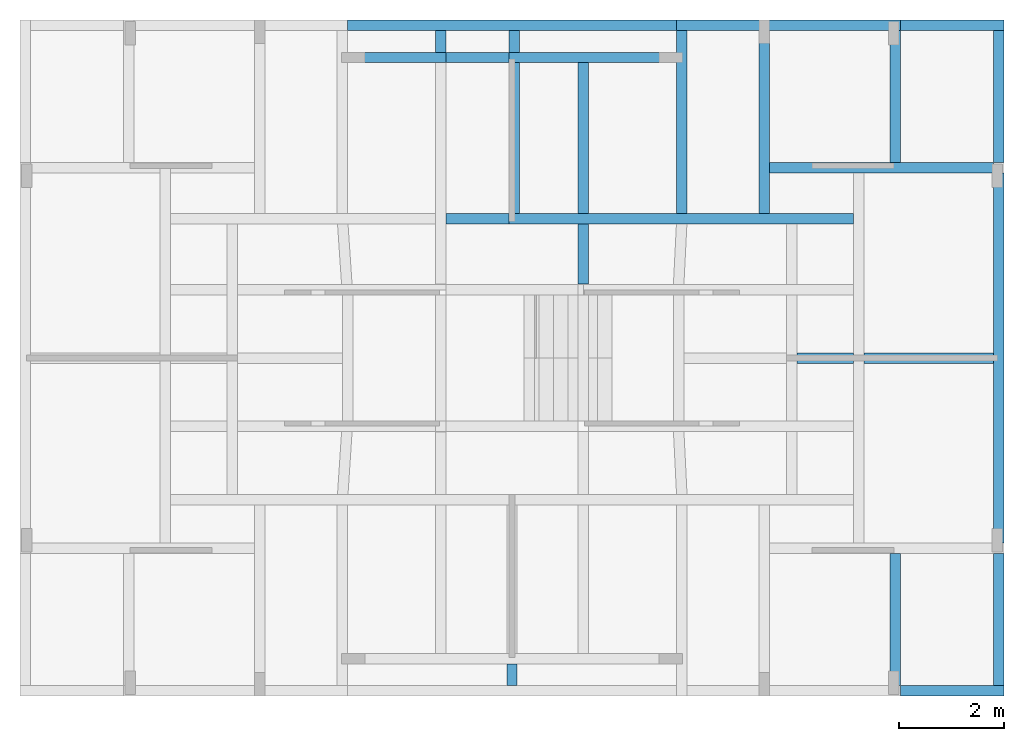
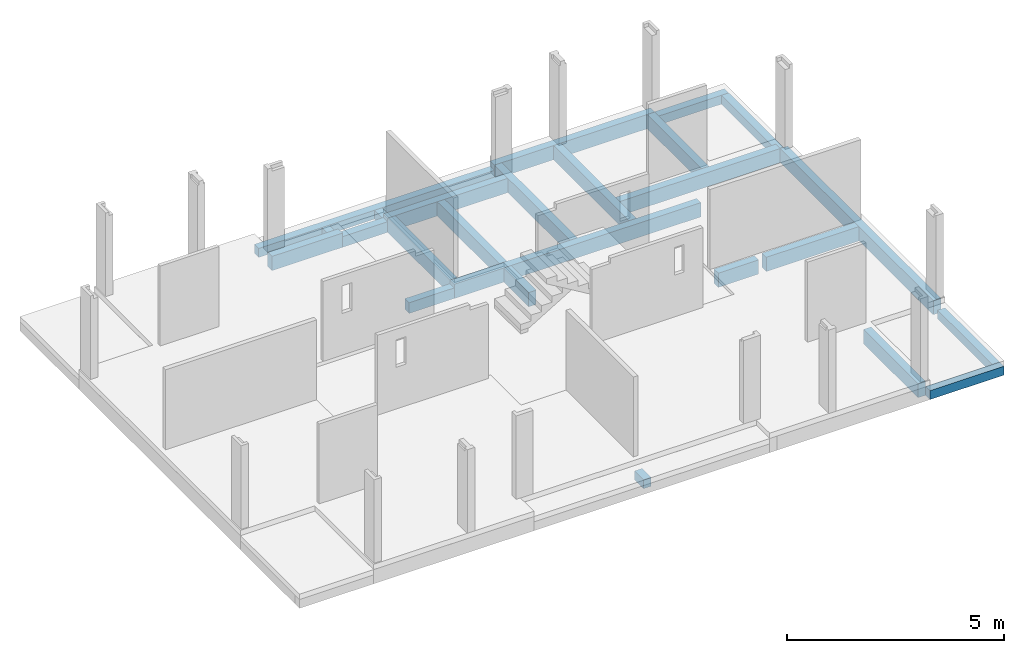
# One storey, part 3 of 7: 23 beams.
"""IFC4 building model written with IfcOpenShell, lengths in metres."""

from ifc_helpers import new_model, entity, si_unit, converted_unit, derived_unit, direction, frame, origin, place, context, subcontext, project, spatial, indexed_curve, outline, extrude, source, transform, mapped, material, type_object, type_shapes, element, save


model = new_model("IFC4")

# Units and contexts
model_context = context("Model", 3, precision=1e-05, world=origin(), true_north=direction((6.123031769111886e-17, 1.0)))
body_context = subcontext(model_context, "Body", "Model", "MODEL_VIEW")
ifc_project = project(units=[si_unit("LENGTHUNIT", "METRE"), si_unit("AREAUNIT", "SQUARE_METRE"), si_unit("VOLUMEUNIT", "CUBIC_METRE"), converted_unit("PLANEANGLEUNIT", "DEGREE", entity("IfcRatioMeasure", 0.017453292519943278), si_unit("PLANEANGLEUNIT", "RADIAN"), dimensions=[0, 0, 0, 0, 0, 0, 0]), si_unit("MASSUNIT", "GRAM", prefix="KILO"), derived_unit("MASSDENSITYUNIT", [(si_unit("MASSUNIT", "GRAM", prefix="KILO"), 1), (si_unit("LENGTHUNIT", "METRE"), -3)]), derived_unit("IONCONCENTRATIONUNIT", [(si_unit("MASSUNIT", "GRAM", prefix="KILO"), 1), (si_unit("LENGTHUNIT", "METRE"), -3)]), derived_unit("MOMENTOFINERTIAUNIT", [(si_unit("LENGTHUNIT", "METRE"), 4)]), si_unit("TIMEUNIT", "SECOND"), si_unit("FREQUENCYUNIT", "HERTZ"), si_unit("THERMODYNAMICTEMPERATUREUNIT", "DEGREE_CELSIUS"), derived_unit("THERMALTRANSMITTANCEUNIT", [(si_unit("MASSUNIT", "GRAM", prefix="KILO"), 1), (si_unit("THERMODYNAMICTEMPERATUREUNIT", "KELVIN"), -1), (si_unit("TIMEUNIT", "SECOND"), -3)]), derived_unit("THERMALCONDUCTANCEUNIT", [(si_unit("MASSUNIT", "GRAM", prefix="KILO"), 1), (si_unit("THERMODYNAMICTEMPERATUREUNIT", "KELVIN"), -1), (si_unit("TIMEUNIT", "SECOND"), -3), (si_unit("LENGTHUNIT", "METRE"), 1)]), derived_unit("VOLUMETRICFLOWRATEUNIT", [(si_unit("LENGTHUNIT", "METRE"), 3), (si_unit("TIMEUNIT", "SECOND"), -1)]), derived_unit("MASSFLOWRATEUNIT", [(si_unit("MASSUNIT", "GRAM", prefix="KILO"), 1), (si_unit("TIMEUNIT", "SECOND"), -1)]), derived_unit("ROTATIONALFREQUENCYUNIT", [(si_unit("TIMEUNIT", "SECOND"), -1)]), si_unit("ELECTRICCURRENTUNIT", "AMPERE"), si_unit("ELECTRICVOLTAGEUNIT", "VOLT"), si_unit("POWERUNIT", "WATT"), si_unit("FORCEUNIT", "NEWTON", prefix="KILO"), si_unit("ILLUMINANCEUNIT", "LUX"), si_unit("LUMINOUSFLUXUNIT", "LUMEN"), si_unit("LUMINOUSINTENSITYUNIT", "CANDELA"), derived_unit("USERDEFINED", [(si_unit("MASSUNIT", "GRAM", prefix="KILO"), -1), (si_unit("LENGTHUNIT", "METRE"), -2), (si_unit("TIMEUNIT", "SECOND"), 3), (si_unit("LUMINOUSFLUXUNIT", "LUMEN"), 1)]), derived_unit("USERDEFINED", [(si_unit("MASSUNIT", "GRAM", prefix="KILO"), 1), (si_unit("TIMEUNIT", "SECOND"), -3), (si_unit("LENGTHUNIT", "METRE"), 3), (si_unit("ELECTRICCURRENTUNIT", "AMPERE"), -2)]), derived_unit("SOUNDPOWERUNIT", [(si_unit("MASSUNIT", "GRAM", prefix="KILO"), 1), (si_unit("TIMEUNIT", "SECOND"), -3), (si_unit("LENGTHUNIT", "METRE"), 2)]), derived_unit("SOUNDPRESSUREUNIT", [(si_unit("MASSUNIT", "GRAM", prefix="KILO"), 1), (si_unit("LENGTHUNIT", "METRE"), -1), (si_unit("TIMEUNIT", "SECOND"), -2)]), derived_unit("LINEARVELOCITYUNIT", [(si_unit("LENGTHUNIT", "METRE"), 1), (si_unit("TIMEUNIT", "SECOND"), -1)]), si_unit("PRESSUREUNIT", "PASCAL"), derived_unit("USERDEFINED", [(si_unit("MASSUNIT", "GRAM", prefix="KILO"), 1), (si_unit("LENGTHUNIT", "METRE"), -2), (si_unit("TIMEUNIT", "SECOND"), -2)]), derived_unit("LINEARFORCEUNIT", [(si_unit("MASSUNIT", "GRAM", prefix="KILO"), 1), (si_unit("TIMEUNIT", "SECOND"), -2)]), derived_unit("PLANARFORCEUNIT", [(si_unit("MASSUNIT", "GRAM", prefix="KILO"), 1), (si_unit("LENGTHUNIT", "METRE"), -1), (si_unit("TIMEUNIT", "SECOND"), -2)]), derived_unit("SPECIFICHEATCAPACITYUNIT", [(si_unit("THERMODYNAMICTEMPERATUREUNIT", "KELVIN"), -1), (si_unit("LENGTHUNIT", "METRE"), 2), (si_unit("TIMEUNIT", "SECOND"), -2)]), derived_unit("HEATINGVALUEUNIT", [(si_unit("LENGTHUNIT", "METRE"), 2), (si_unit("TIMEUNIT", "SECOND"), -2)]), derived_unit("VAPORPERMEABILITYUNIT", [(si_unit("LENGTHUNIT", "METRE"), -1), (si_unit("TIMEUNIT", "SECOND"), 1)]), derived_unit("DYNAMICVISCOSITYUNIT", [(si_unit("MASSUNIT", "GRAM", prefix="KILO"), 1), (si_unit("TIMEUNIT", "SECOND"), -1), (si_unit("LENGTHUNIT", "METRE"), -1)]), derived_unit("THERMALEXPANSIONCOEFFICIENTUNIT", [(si_unit("THERMODYNAMICTEMPERATUREUNIT", "KELVIN"), -1)]), derived_unit("MODULUSOFELASTICITYUNIT", [(si_unit("MASSUNIT", "GRAM", prefix="KILO"), 1), (si_unit("LENGTHUNIT", "METRE"), -1), (si_unit("TIMEUNIT", "SECOND"), -2)]), derived_unit("ISOTHERMALMOISTURECAPACITYUNIT", [(si_unit("LENGTHUNIT", "METRE"), 3), (si_unit("MASSUNIT", "GRAM", prefix="KILO"), -1)]), derived_unit("MOISTUREDIFFUSIVITYUNIT", [(si_unit("TIMEUNIT", "SECOND"), -1), (si_unit("LENGTHUNIT", "METRE"), 2)])], contexts=[model_context])

# Site, building, storey
site_placement = place(None, origin())
site = spatial("IfcSite", under=ifc_project, at=site_placement, Name="Default", CompositionType="ELEMENT")
building_placement = place(site_placement, origin())
building = spatial("IfcBuilding", under=site, at=building_placement, Name="Las nubes", CompositionType="ELEMENT")
storey_placement = place(building_placement, origin())
storey = spatial("IfcBuildingStorey", under=building, at=storey_placement, Name="CIMENTACIÓN", CompositionType="ELEMENT", Elevation=-3.522347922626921e-13)

# Beams
ifc_material_1 = material(Name="Concrete, Cast In Situ", Category="Materials")
beam_type_1 = type_object("IfcBeamType", Name="M_Concrete-Rectangular Beam:(0.20x0.55)", PredefinedType="BEAM", material=ifc_material_1)
shared_shape_1 = source(origin(), body_context, "Body", "SweptSolid", [
    extrude(outline(indexed_curve([(-0.1999999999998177, -0.09999999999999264), (0.19999999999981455, -0.10000000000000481), (0.19999999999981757, 0.09999999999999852), (-0.1999999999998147, 0.10000000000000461), (-0.1999999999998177, -0.09999999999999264)], self_intersect=False)), frame((6.182499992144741, -0.6950000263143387, -0.3500000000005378), z_axis=(1.0, 0.0, 0.0), x_axis=(0.0, 0.0, -1.0)), (0.0, 0.0, 1.0), 1.8800000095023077),
])
type_shapes(beam_type_1, [shared_shape_1])
beam_1_placement = place(storey_placement, origin())
element("IfcBeam", 1, at=beam_1_placement, inside=storey, type_object=beam_type_1, material=ifc_material_1, Name="M_Concrete-Rectangular Beam:(0.20x0.55)", ObjectType="M_Concrete-Rectangular Beam:(0.20x0.55)", PredefinedType="BEAM", context=body_context, shape_type="MappedRepresentation", body=[
    mapped(shared_shape_1, transform((0.0, 0.0, 0.0), scale=1.0)),
])
beam_type_2 = type_object("IfcBeamType", Name="M_Concrete-Rectangular Beam:(0.20x0.55)", PredefinedType="BEAM", material=ifc_material_1)
shared_shape_2 = source(origin(), body_context, "Body", "SweptSolid", [
    extrude(outline(indexed_curve([(-0.10000000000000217, -0.19999999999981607), (0.10000000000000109, -0.19999999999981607), (0.1000000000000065, 0.19999999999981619), (-0.10000000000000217, 0.19999999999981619), (-0.10000000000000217, -0.19999999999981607)], self_intersect=False)), frame((9.362500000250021, -3.6674999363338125, -0.3500000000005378), z_axis=(0.0, 1.0, 0.0), x_axis=(-1.0, 0.0, 0.0)), (0.0, 0.0, 1.0), 2.872499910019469),
])
type_shapes(beam_type_2, [shared_shape_2])
beam_2_placement = place(storey_placement, origin())
element("IfcBeam", 2, at=beam_2_placement, inside=storey, type_object=beam_type_2, material=ifc_material_1, Name="M_Concrete-Rectangular Beam:(0.20x0.55)", ObjectType="M_Concrete-Rectangular Beam:(0.20x0.55)", PredefinedType="BEAM", context=body_context, shape_type="MappedRepresentation", body=[
    mapped(shared_shape_2, transform((0.0, 0.0, 0.0), scale=1.0)),
])
beam_type_3 = type_object("IfcBeamType", Name="M_Concrete-Rectangular Beam:(0.20x0.55)", PredefinedType="BEAM", material=ifc_material_1)
shared_shape_3 = source(origin(), body_context, "Body", "SweptSolid", [
    extrude(outline(indexed_curve([(-0.10000000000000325, -0.19999999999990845), (0.10000000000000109, -0.19999999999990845), (0.10000000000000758, 0.19999999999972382), (-0.10000000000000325, 0.20000000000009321), (-0.10000000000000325, -0.19999999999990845)], self_intersect=False)), frame((16.627500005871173, -12.67000003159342, -0.3500000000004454), z_axis=(0.0, 1.0, 0.0), x_axis=(-1.0, 0.0, 0.0)), (0.0, 0.0, 1.0), 2.515000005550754),
])
type_shapes(beam_type_3, [shared_shape_3])
beam_3_placement = place(storey_placement, origin())
element("IfcBeam", 3, at=beam_3_placement, inside=storey, type_object=beam_type_3, material=ifc_material_1, Name="M_Concrete-Rectangular Beam:(0.20x0.55)", ObjectType="M_Concrete-Rectangular Beam:(0.20x0.55)", PredefinedType="BEAM", context=body_context, shape_type="MappedRepresentation", body=[
    mapped(shared_shape_3, transform((0.0, 0.0, 0.0), scale=1.0)),
])
ifc_material_2 = material(Name="Concrete - Cast-in-Place Concrete - 28 MPa SLAB", Category="Materials")
beam_type_4 = type_object("IfcBeamType", Name="M_Concrete-Rectangular Beam:(0.20x0.55)", PredefinedType="BEAM", material=ifc_material_2)
shared_shape_4 = source(origin(), body_context, "Body", "SweptSolid", [
    extrude(outline(indexed_curve([(-0.10000000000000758, -0.19999999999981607), (0.09999999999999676, -0.19999999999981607), (0.10000000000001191, 0.19999999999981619), (-0.10000000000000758, 0.19999999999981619), (-0.10000000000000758, -0.19999999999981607)], self_intersect=False)), frame((18.602500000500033, -9.955000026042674, -0.3500000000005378), z_axis=(0.0, 1.0, 0.0), x_axis=(-1.0, 0.0, 0.0)), (0.0, 0.0, 1.0), 7.0599999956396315),
])
type_shapes(beam_type_4, [shared_shape_4])
beam_4_placement = place(storey_placement, origin())
element("IfcBeam", 4, at=beam_4_placement, inside=storey, type_object=beam_type_4, material=ifc_material_2, Name="M_Concrete-Rectangular Beam:(0.20x0.55)", ObjectType="M_Concrete-Rectangular Beam:(0.20x0.55)", PredefinedType="BEAM", context=body_context, shape_type="MappedRepresentation", body=[
    mapped(shared_shape_4, transform((0.0, 0.0, 0.0), scale=1.0)),
])
beam_type_5 = type_object("IfcBeamType", Name="M_Concrete-Rectangular Beam:(0.20x0.55)", PredefinedType="BEAM", material=ifc_material_2)
shared_shape_5 = source(origin(), body_context, "Body", "SweptSolid", [
    extrude(outline(indexed_curve([(-0.19999999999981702, -0.09999999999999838), (0.19999999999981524, -0.1000000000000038), (0.19999999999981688, 0.09999999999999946), (-0.19999999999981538, 0.1000000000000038), (-0.19999999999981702, -0.09999999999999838)], self_intersect=False)), frame((15.834998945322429, -6.425000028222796, -0.3500000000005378), z_axis=(-1.0, 0.0, 0.0), x_axis=(0.0, 0.0, -1.0)), (0.0, 0.0, 1.0), 1.077498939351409),
    extrude(outline(indexed_curve([(-0.1999999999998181, -0.0999999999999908), (0.19999999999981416, -0.10000000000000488), (0.19999999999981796, 0.09999999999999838), (-0.1999999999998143, 0.10000000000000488), (-0.1999999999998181, -0.0999999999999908)], self_intersect=False)), frame((18.502500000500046, -6.425000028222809, -0.3500000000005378), z_axis=(-1.0, 0.0, 0.0), x_axis=(0.0, 0.0, -1.0)), (0.0, 0.0, 1.0), 2.467501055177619),
])
type_shapes(beam_type_5, [shared_shape_5])
beam_5_placement = place(storey_placement, origin())
element("IfcBeam", 5, at=beam_5_placement, inside=storey, type_object=beam_type_5, material=ifc_material_2, Name="M_Concrete-Rectangular Beam:(0.20x0.55)", ObjectType="M_Concrete-Rectangular Beam:(0.20x0.55)", PredefinedType="BEAM", context=body_context, shape_type="MappedRepresentation", body=[
    mapped(shared_shape_5, transform((0.0, 0.0, 0.0), scale=1.0)),
])
ifc_material_3 = material(Name="Concrete - Cast-in-Place Concrete - 35 MPa", Category="Materials")
beam_type_6 = type_object("IfcBeamType", Name="M_Concrete-Rectangular Beam:(0.20x0.55)", PredefinedType="BEAM", material=ifc_material_3)
shared_shape_6 = source(origin(), body_context, "Body", "SweptSolid", [
    extrude(outline(indexed_curve([(-0.19999999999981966, -0.09999999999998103), (0.1999999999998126, -0.10000000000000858), (0.19999999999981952, 0.09999999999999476), (-0.19999999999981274, 0.10000000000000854), (-0.19999999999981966, -0.09999999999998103)], self_intersect=False)), frame((12.462500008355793, -0.08000002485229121, -0.3500000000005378), z_axis=(1.0, 0.0, 0.0), x_axis=(0.0, 0.0, -1.0)), (0.0, 0.0, 1.0), 4.264999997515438),
])
type_shapes(beam_type_6, [shared_shape_6])
beam_6_placement = place(storey_placement, origin())
element("IfcBeam", 6, at=beam_6_placement, inside=storey, type_object=beam_type_6, material=ifc_material_3, Name="M_Concrete-Rectangular Beam:(0.20x0.55)", ObjectType="M_Concrete-Rectangular Beam:(0.20x0.55)", PredefinedType="BEAM", context=body_context, shape_type="MappedRepresentation", body=[
    mapped(shared_shape_6, transform((0.0, 0.0, 0.0), scale=1.0)),
])
beam_type_7 = type_object("IfcBeamType", Name="M_Concrete-Rectangular Beam:(0.20x0.55)", PredefinedType="BEAM", material=ifc_material_2)
shared_shape_7 = source(origin(), body_context, "Body", "SweptSolid", [
    extrude(outline(indexed_curve([(-0.10000000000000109, -0.19999999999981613), (0.10000000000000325, -0.19999999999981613), (0.10000000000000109, 0.19999999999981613), (-0.10000000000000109, 0.19999999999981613), (-0.10000000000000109, -0.19999999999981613)], self_intersect=False)), frame((14.135000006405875, -0.18000002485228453, -0.3500000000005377), z_axis=(0.0, -1.0, 0.0), x_axis=(-1.0, 0.0, 0.0)), (0.0, 0.0, 1.0), 3.487499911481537),
])
type_shapes(beam_type_7, [shared_shape_7])
beam_7_placement = place(storey_placement, origin())
element("IfcBeam", 7, at=beam_7_placement, inside=storey, type_object=beam_type_7, material=ifc_material_2, Name="M_Concrete-Rectangular Beam:(0.20x0.55)", ObjectType="M_Concrete-Rectangular Beam:(0.20x0.55)", PredefinedType="BEAM", context=body_context, shape_type="MappedRepresentation", body=[
    mapped(shared_shape_7, transform((0.0, 0.0, 0.0), scale=1.0)),
])
beam_type_8 = type_object("IfcBeamType", Name="M_Concrete-Rectangular Beam:(0.20x0.55)", PredefinedType="BEAM", material=ifc_material_2)
shared_shape_8 = source(origin(), body_context, "Body", "SweptSolid", [
    extrude(outline(indexed_curve([(-0.1999999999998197, -0.09999999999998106), (0.19999999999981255, -0.10000000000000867), (0.19999999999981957, 0.0999999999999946), (-0.1999999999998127, 0.10000000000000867), (-0.1999999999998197, -0.09999999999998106)], self_intersect=False)), frame((18.502500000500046, -2.7950000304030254, -0.3500000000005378), z_axis=(-1.0, 0.0, 0.0), x_axis=(0.0, 0.0, -1.0)), (0.0, 0.0, 1.0), 4.267499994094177),
])
type_shapes(beam_type_8, [shared_shape_8])
beam_8_placement = place(storey_placement, origin())
element("IfcBeam", 8, at=beam_8_placement, inside=storey, type_object=beam_type_8, material=ifc_material_2, Name="M_Concrete-Rectangular Beam:(0.20x0.55)", ObjectType="M_Concrete-Rectangular Beam:(0.20x0.55)", PredefinedType="BEAM", context=body_context, shape_type="MappedRepresentation", body=[
    mapped(shared_shape_8, transform((0.0, 0.0, 0.0), scale=1.0)),
])
beam_type_9 = type_object("IfcBeamType", Name="M_Concrete-Rectangular Beam:(0.20x0.55)", PredefinedType="BEAM", material=ifc_material_2)
shared_shape_9 = source(origin(), body_context, "Body", "SweptSolid", [
    extrude(outline(indexed_curve([(-0.10000000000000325, -0.20000000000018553), (0.10000000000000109, -0.19999999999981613), (0.10000000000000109, 0.19999999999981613), (-0.10000000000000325, 0.19999999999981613), (-0.10000000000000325, -0.20000000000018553)], self_intersect=False)), frame((16.627500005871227, -0.18000002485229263, -0.3500000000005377), z_axis=(0.0, -1.0, 0.0), x_axis=(-1.0, 0.0, 0.0)), (0.0, 0.0, 1.0), 2.5150000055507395),
])
type_shapes(beam_type_9, [shared_shape_9])
beam_9_placement = place(storey_placement, origin())
element("IfcBeam", 9, at=beam_9_placement, inside=storey, type_object=beam_type_9, material=ifc_material_2, Name="M_Concrete-Rectangular Beam:(0.20x0.55)", ObjectType="M_Concrete-Rectangular Beam:(0.20x0.55)", PredefinedType="BEAM", context=body_context, shape_type="MappedRepresentation", body=[
    mapped(shared_shape_9, transform((0.0, 0.0, 0.0), scale=1.0)),
])
beam_type_10 = type_object("IfcBeamType", Name="M_Concrete-Rectangular Beam:(0.20x0.40)", PredefinedType="BEAM", material=ifc_material_1)
shared_shape_10 = source(origin(), body_context, "Body", "SweptSolid", [
    extrude(outline(indexed_curve([(-0.10000000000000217, -0.12500000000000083), (0.10000000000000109, -0.12500000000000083), (0.10000000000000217, 0.12500000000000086), (-0.10000000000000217, 0.12500000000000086), (-0.10000000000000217, -0.12500000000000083)], self_intersect=False)), frame((7.962500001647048, -0.5950000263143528, -0.42500000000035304), z_axis=(0.0, 1.0, 0.0), x_axis=(-1.0, 0.0, 0.0)), (0.0, 0.0, 1.0), 0.4150000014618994),
])
type_shapes(beam_type_10, [shared_shape_10])
beam_10_placement = place(storey_placement, origin())
element("IfcBeam", 10, at=beam_10_placement, inside=storey, type_object=beam_type_10, material=ifc_material_1, Name="M_Concrete-Rectangular Beam:(0.20x0.40)", ObjectType="M_Concrete-Rectangular Beam:(0.20x0.40)", PredefinedType="BEAM", context=body_context, shape_type="MappedRepresentation", body=[
    mapped(shared_shape_10, transform((0.0, 0.0, 0.0), scale=1.0)),
])
beam_type_11 = type_object("IfcBeamType", Name="M_Concrete-Rectangular Beam:(0.20x0.40)", PredefinedType="BEAM", material=ifc_material_1)
shared_shape_11 = source(origin(), body_context, "Body", "SweptSolid", [
    extrude(outline(indexed_curve([(-0.12500000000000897, -0.09999999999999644), (0.12499999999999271, -0.10000000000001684), (0.12500000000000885, 0.09999999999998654), (-0.12499999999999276, 0.10000000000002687), (-0.12500000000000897, -0.09999999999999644)], self_intersect=False)), frame((6.182499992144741, -0.08000002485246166, -0.42500000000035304), z_axis=(1.0, 0.0, 0.0), x_axis=(0.0, 0.0, -1.0)), (0.0, 0.0, 1.0), 6.280000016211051),
])
type_shapes(beam_type_11, [shared_shape_11])
beam_11_placement = place(storey_placement, origin())
element("IfcBeam", 11, at=beam_11_placement, inside=storey, type_object=beam_type_11, material=ifc_material_1, Name="M_Concrete-Rectangular Beam:(0.20x0.40)", ObjectType="M_Concrete-Rectangular Beam:(0.20x0.40)", PredefinedType="BEAM", context=body_context, shape_type="MappedRepresentation", body=[
    mapped(shared_shape_11, transform((0.0, 0.0, 0.0), scale=1.0)),
])
beam_type_12 = type_object("IfcBeamType", Name="M_Concrete-Rectangular Beam:(0.20x0.40)", PredefinedType="BEAM", material=ifc_material_1)
shared_shape_12 = source(origin(), body_context, "Body", "SweptSolid", [
    extrude(outline(indexed_curve([(-0.10000000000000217, -0.12500000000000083), (0.10000000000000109, -0.12500000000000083), (0.10000000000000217, 0.12500000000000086), (-0.10000000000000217, 0.12500000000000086), (-0.10000000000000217, -0.12500000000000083)], self_intersect=False)), frame((9.362500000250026, -0.5950000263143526, -0.42500000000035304), z_axis=(0.0, 1.0, 0.0), x_axis=(-1.0, 0.0, 0.0)), (0.0, 0.0, 1.0), 0.4150000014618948),
])
type_shapes(beam_type_12, [shared_shape_12])
beam_12_placement = place(storey_placement, origin())
element("IfcBeam", 12, at=beam_12_placement, inside=storey, type_object=beam_type_12, material=ifc_material_1, Name="M_Concrete-Rectangular Beam:(0.20x0.40)", ObjectType="M_Concrete-Rectangular Beam:(0.20x0.40)", PredefinedType="BEAM", context=body_context, shape_type="MappedRepresentation", body=[
    mapped(shared_shape_12, transform((0.0, 0.0, 0.0), scale=1.0)),
])
beam_type_13 = type_object("IfcBeamType", Name="M_Concrete-Rectangular Beam:(0.20x0.40)", PredefinedType="BEAM", material=ifc_material_2)
shared_shape_13 = source(origin(), body_context, "Body", "SweptSolid", [
    extrude(outline(indexed_curve([(-0.1250000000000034, -0.09999999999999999), (0.12499999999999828, -0.10000000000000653), (0.1250000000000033, 0.09999999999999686), (-0.12499999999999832, 0.10000000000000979), (-0.1250000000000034, -0.09999999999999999)], self_intersect=False)), frame((16.727500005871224, -0.08000002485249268, -0.42500000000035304), z_axis=(1.0, 0.0, 0.0), x_axis=(0.0, 0.0, -1.0)), (0.0, 0.0, 1.0), 1.974999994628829),
])
type_shapes(beam_type_13, [shared_shape_13])
beam_13_placement = place(storey_placement, origin())
element("IfcBeam", 13, at=beam_13_placement, inside=storey, type_object=beam_type_13, material=ifc_material_2, Name="M_Concrete-Rectangular Beam:(0.20x0.40)", ObjectType="M_Concrete-Rectangular Beam:(0.20x0.40)", PredefinedType="BEAM", context=body_context, shape_type="MappedRepresentation", body=[
    mapped(shared_shape_13, transform((0.0, 0.0, 0.0), scale=1.0)),
])
beam_type_14 = type_object("IfcBeamType", Name="M_Concrete-Rectangular Beam:(0.20x0.40)", PredefinedType="BEAM", material=ifc_material_2)
shared_shape_14 = source(origin(), body_context, "Body", "SweptSolid", [
    extrude(outline(indexed_curve([(-0.10000000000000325, -0.12500000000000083), (0.10000000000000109, -0.12500000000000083), (0.10000000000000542, 0.12500000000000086), (-0.10000000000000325, 0.12500000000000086), (-0.10000000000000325, -0.12500000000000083)], self_intersect=False)), frame((18.60250000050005, -2.695000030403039, -0.42500000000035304), z_axis=(0.0, 1.0, 0.0), x_axis=(-1.0, 0.0, 0.0)), (0.0, 0.0, 1.0), 2.5150000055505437),
])
type_shapes(beam_type_14, [shared_shape_14])
beam_14_placement = place(storey_placement, origin())
element("IfcBeam", 14, at=beam_14_placement, inside=storey, type_object=beam_type_14, material=ifc_material_2, Name="M_Concrete-Rectangular Beam:(0.20x0.40)", ObjectType="M_Concrete-Rectangular Beam:(0.20x0.40)", PredefinedType="BEAM", context=body_context, shape_type="MappedRepresentation", body=[
    mapped(shared_shape_14, transform((0.0, 0.0, 0.0), scale=1.0)),
])
beam_type_15 = type_object("IfcBeamType", Name="M_Concrete-Rectangular Beam:(0.20x0.40)", PredefinedType="BEAM", material=ifc_material_1)
shared_shape_15 = source(origin(), body_context, "Body", "SweptSolid", [
    extrude(outline(indexed_curve([(-0.12500000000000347, -0.1), (0.12499999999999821, -0.1000000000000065), (0.12500000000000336, 0.09999999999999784), (-0.12499999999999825, 0.10000000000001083), (-0.12500000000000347, -0.1)], self_intersect=False)), frame((16.72750000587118, -12.770000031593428, -0.42500000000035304), z_axis=(1.0, 0.0, 0.0), x_axis=(0.0, 0.0, -1.0)), (0.0, 0.0, 1.0), 1.9749999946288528),
])
type_shapes(beam_type_15, [shared_shape_15])
beam_15_placement = place(storey_placement, origin())
element("IfcBeam", 15, at=beam_15_placement, inside=storey, type_object=beam_type_15, material=ifc_material_1, Name="M_Concrete-Rectangular Beam:(0.20x0.40)", ObjectType="M_Concrete-Rectangular Beam:(0.20x0.40)", PredefinedType="BEAM", context=body_context, shape_type="MappedRepresentation", body=[
    mapped(shared_shape_15, transform((0.0, 0.0, 0.0), scale=1.0)),
])
beam_type_16 = type_object("IfcBeamType", Name="M_Concrete-Rectangular Beam:(0.20x0.40)", PredefinedType="BEAM", material=ifc_material_1)
shared_shape_16 = source(origin(), body_context, "Body", "SweptSolid", [
    extrude(outline(indexed_curve([(-0.10000000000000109, -0.12500000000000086), (0.10000000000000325, -0.12500000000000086), (0.10000000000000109, 0.12500000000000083), (-0.10000000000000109, 0.12500000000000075), (-0.10000000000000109, -0.12500000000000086)], self_intersect=False)), frame((18.602500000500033, -10.15500002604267, -0.42500000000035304), z_axis=(0.0, -1.0, 0.0), x_axis=(-1.0, 0.0, 0.0)), (0.0, 0.0, 1.0), 2.515000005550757),
])
type_shapes(beam_type_16, [shared_shape_16])
beam_16_placement = place(storey_placement, origin())
element("IfcBeam", 16, at=beam_16_placement, inside=storey, type_object=beam_type_16, material=ifc_material_1, Name="M_Concrete-Rectangular Beam:(0.20x0.40)", ObjectType="M_Concrete-Rectangular Beam:(0.20x0.40)", PredefinedType="BEAM", context=body_context, shape_type="MappedRepresentation", body=[
    mapped(shared_shape_16, transform((0.0, 0.0, 0.0), scale=1.0)),
])
beam_type_17 = type_object("IfcBeamType", Name="M_Concrete-Rectangular Beam:(0.20x0.40)", PredefinedType="BEAM", material=ifc_material_1)
shared_shape_17 = source(origin(), body_context, "Body", "SweptSolid", [
    extrude(outline(indexed_curve([(-0.10000000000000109, -0.1250000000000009), (0.10000000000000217, -0.12500000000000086), (0.10000000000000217, 0.12500000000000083), (-0.10000000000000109, 0.12500000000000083), (-0.10000000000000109, -0.1250000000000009)], self_intersect=False)), frame((9.322500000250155, -12.255000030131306, -0.42500000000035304), z_axis=(0.0, -1.0, 0.0), x_axis=(-1.0, 0.0, 0.0)), (0.0, 0.0, 1.0), 0.41500000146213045),
])
type_shapes(beam_type_17, [shared_shape_17])
beam_17_placement = place(storey_placement, origin())
element("IfcBeam", 17, at=beam_17_placement, inside=storey, type_object=beam_type_17, material=ifc_material_1, Name="M_Concrete-Rectangular Beam:(0.20x0.40)", ObjectType="M_Concrete-Rectangular Beam:(0.20x0.40)", PredefinedType="BEAM", context=body_context, shape_type="MappedRepresentation", body=[
    mapped(shared_shape_17, transform((0.0, 0.0, 0.0), scale=1.0)),
])
beam_type_18 = type_object("IfcBeamType", Name="M_Concrete-Rectangular Beam:(0.20x0.55)", PredefinedType="BEAM", material=ifc_material_1)
shared_shape_18 = source(origin(), body_context, "Body", "SweptSolid", [
    extrude(outline(indexed_curve([(-0.10000000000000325, -0.19999999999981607), (0.10000000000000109, -0.19999999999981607), (0.10000000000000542, 0.19999999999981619), (-0.10000000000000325, 0.19999999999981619), (-0.10000000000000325, -0.19999999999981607)], self_intersect=False)), frame((12.562500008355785, -3.667499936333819, -0.3500000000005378), z_axis=(0.0, 1.0, 0.0), x_axis=(-1.0, 0.0, 0.0)), (0.0, 0.0, 1.0), 3.4874999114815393),
])
type_shapes(beam_type_18, [shared_shape_18])
beam_18_placement = place(storey_placement, origin())
element("IfcBeam", 18, at=beam_18_placement, inside=storey, type_object=beam_type_18, material=ifc_material_1, Name="M_Concrete-Rectangular Beam:(0.20x0.55)", ObjectType="M_Concrete-Rectangular Beam:(0.20x0.55)", PredefinedType="BEAM", context=body_context, shape_type="MappedRepresentation", body=[
    mapped(shared_shape_18, transform((0.0, 0.0, 0.0), scale=1.0)),
])
beam_type_19 = type_object("IfcBeamType", Name="M_Concrete-Rectangular Beam:(0.20x0.55)", PredefinedType="BEAM", material=ifc_material_1)
shared_shape_19 = source(origin(), body_context, "Body", "SweptSolid", [
    extrude(outline(indexed_curve([(-0.10000000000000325, -0.19999999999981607), (0.10000000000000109, -0.19999999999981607), (0.10000000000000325, 0.19999999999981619), (-0.10000000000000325, 0.19999999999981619), (-0.10000000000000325, -0.19999999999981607)], self_intersect=False)), frame((10.682499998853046, -5.012300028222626, -0.3500000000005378), z_axis=(0.0, 1.0, 0.0), x_axis=(-1.0, 0.0, 0.0)), (0.0, 0.0, 1.0), 1.1448000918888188),
    extrude(outline(indexed_curve([(-0.10000000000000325, -0.19999999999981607), (0.10000000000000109, -0.19999999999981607), (0.10000000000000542, 0.19999999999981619), (-0.10000000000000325, 0.19999999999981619), (-0.10000000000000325, -0.19999999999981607)], self_intersect=False)), frame((10.682499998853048, -3.6674999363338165, -0.3500000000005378), z_axis=(0.0, 1.0, 0.0), x_axis=(-1.0, 0.0, 0.0)), (0.0, 0.0, 1.0), 2.8724999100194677),
])
type_shapes(beam_type_19, [shared_shape_19])
beam_19_placement = place(storey_placement, origin())
element("IfcBeam", 19, at=beam_19_placement, inside=storey, type_object=beam_type_19, material=ifc_material_1, Name="M_Concrete-Rectangular Beam:(0.20x0.55)", ObjectType="M_Concrete-Rectangular Beam:(0.20x0.55)", PredefinedType="BEAM", context=body_context, shape_type="MappedRepresentation", body=[
    mapped(shared_shape_19, transform((0.0, 0.0, 0.0), scale=1.0)),
])
beam_type_20 = type_object("IfcBeamType", Name="M_Concrete-Rectangular Beam:(0.20x0.45)", PredefinedType="BEAM", material=ifc_material_1)
shared_shape_20 = source(origin(), body_context, "Body", "SweptSolid", [
    extrude(outline(indexed_curve([(-0.1500000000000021, -0.10000000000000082), (0.14999999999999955, -0.10000000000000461), (0.1500000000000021, 0.09999999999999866), (-0.14999999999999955, 0.10000000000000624), (-0.1500000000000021, -0.10000000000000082)], self_intersect=False)), frame((8.062500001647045, -3.767499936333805, -0.4000000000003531), z_axis=(1.0, 0.0, 0.0), x_axis=(0.0, 0.0, -1.0)), (0.0, 0.0, 1.0), 1.1999999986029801),
])
type_shapes(beam_type_20, [shared_shape_20])
beam_20_placement = place(storey_placement, origin())
element("IfcBeam", 20, at=beam_20_placement, inside=storey, type_object=beam_type_20, material=ifc_material_1, Name="M_Concrete-Rectangular Beam:(0.20x0.45)", ObjectType="M_Concrete-Rectangular Beam:(0.20x0.45)", PredefinedType="BEAM", context=body_context, shape_type="MappedRepresentation", body=[
    mapped(shared_shape_20, transform((0.0, 0.0, 0.0), scale=1.0)),
])
beam_type_21 = type_object("IfcBeamType", Name="M_Concrete-Rectangular Beam:(0.20x0.55)", PredefinedType="BEAM", material=ifc_material_2)
shared_shape_21 = source(origin(), body_context, "Body", "SweptSolid", [
    extrude(outline(indexed_curve([(-0.1999999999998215, -0.09999999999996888), (0.19999999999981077, -0.10000000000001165), (0.19999999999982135, 0.09999999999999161), (-0.1999999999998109, 0.10000000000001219), (-0.1999999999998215, -0.09999999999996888)], self_intersect=False)), frame((9.262500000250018, -3.767499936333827, -0.3500000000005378), z_axis=(1.0, 0.0, 0.0), x_axis=(0.0, 0.0, -1.0)), (0.0, 0.0, 1.0), 6.572498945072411),
])
type_shapes(beam_type_21, [shared_shape_21])
beam_21_placement = place(storey_placement, origin())
element("IfcBeam", 21, at=beam_21_placement, inside=storey, type_object=beam_type_21, material=ifc_material_2, Name="M_Concrete-Rectangular Beam:(0.20x0.55)", ObjectType="M_Concrete-Rectangular Beam:(0.20x0.55)", PredefinedType="BEAM", context=body_context, shape_type="MappedRepresentation", body=[
    mapped(shared_shape_21, transform((0.0, 0.0, 0.0), scale=1.0)),
])
beam_type_22 = type_object("IfcBeamType", Name="M_Concrete-Rectangular Beam:(0.20x0.45)", PredefinedType="BEAM", material=ifc_material_1)
shared_shape_22 = source(origin(), body_context, "Body", "SweptSolid", [
    extrude(outline(indexed_curve([(-0.1500000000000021, -0.10000000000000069), (0.14999999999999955, -0.10000000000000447), (0.1500000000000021, 0.09999999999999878), (-0.14999999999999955, 0.1000000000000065), (-0.1500000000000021, -0.10000000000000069)], self_intersect=False)), frame((8.06250000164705, -0.6950000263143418, -0.4000000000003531), z_axis=(1.0, 0.0, 0.0), x_axis=(0.0, 0.0, -1.0)), (0.0, 0.0, 1.0), 1.199999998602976),
])
type_shapes(beam_type_22, [shared_shape_22])
beam_22_placement = place(storey_placement, origin())
element("IfcBeam", 22, at=beam_22_placement, inside=storey, type_object=beam_type_22, material=ifc_material_1, Name="M_Concrete-Rectangular Beam:(0.20x0.45)", ObjectType="M_Concrete-Rectangular Beam:(0.20x0.45)", PredefinedType="BEAM", context=body_context, shape_type="MappedRepresentation", body=[
    mapped(shared_shape_22, transform((0.0, 0.0, 0.0), scale=1.0)),
])
beam_type_23 = type_object("IfcBeamType", Name="M_Concrete-Rectangular Beam:(0.20x0.55)", PredefinedType="BEAM", material=ifc_material_1)
shared_shape_23 = source(origin(), body_context, "Body", "SweptSolid", [
    extrude(outline(indexed_curve([(-0.19999999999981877, -0.0999999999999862), (0.1999999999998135, -0.10000000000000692), (0.19999999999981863, 0.0999999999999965), (-0.19999999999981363, 0.10000000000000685), (-0.19999999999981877, -0.0999999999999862)], self_intersect=False)), frame((9.262500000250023, -0.6950000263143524, -0.3500000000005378), z_axis=(1.0, 0.0, 0.0), x_axis=(0.0, 0.0, -1.0)), (0.0, 0.0, 1.0), 3.2000000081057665),
])
type_shapes(beam_type_23, [shared_shape_23])
beam_23_placement = place(storey_placement, origin())
element("IfcBeam", 23, at=beam_23_placement, inside=storey, type_object=beam_type_23, material=ifc_material_1, Name="M_Concrete-Rectangular Beam:(0.20x0.55)", ObjectType="M_Concrete-Rectangular Beam:(0.20x0.55)", PredefinedType="BEAM", context=body_context, shape_type="MappedRepresentation", body=[
    mapped(shared_shape_23, transform((0.0, 0.0, 0.0), scale=1.0)),
])

save(model, "model.ifc")
